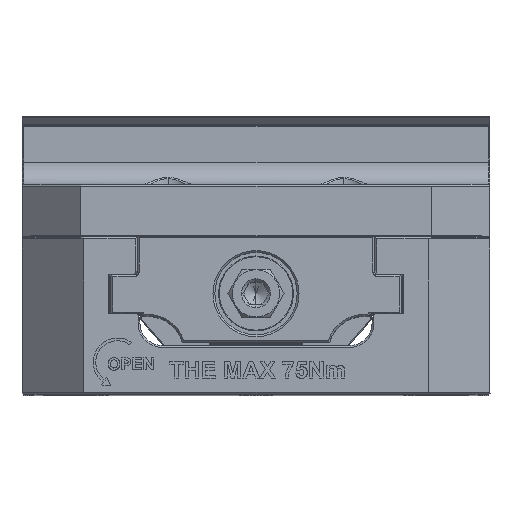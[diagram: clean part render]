
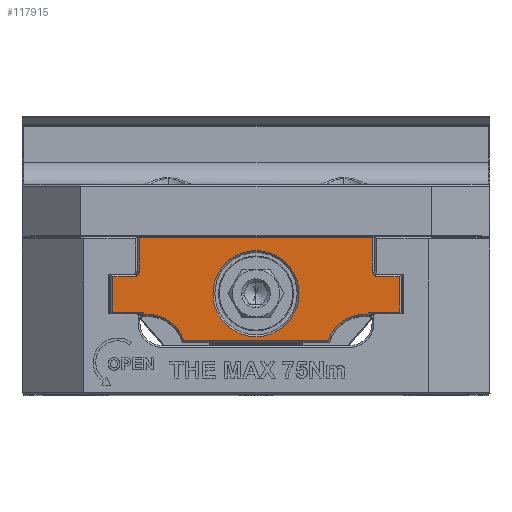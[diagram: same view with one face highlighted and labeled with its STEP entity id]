
A CAD part, top view. The second image highlights one B-rep face of the part: STEP entity #117915.
In plain terms, the highlighted planar face has unit normal (0, 0, 1) as drawn and (0, 0, -1) by its records, which use the part's own axes.
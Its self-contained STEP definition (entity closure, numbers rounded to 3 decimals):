
#116426=CARTESIAN_POINT('',(-30.853,-20.83,0.08));
#116427=DIRECTION('',(0.,0.,-1.));
#116428=DIRECTION('',(-0.001,1.,0.));
#116429=AXIS2_PLACEMENT_3D('',#116426,#116427,#116428);
#116431=DIRECTION('',(1.,0.,0.));
#116432=VECTOR('',#116431,1.264);
#116433=CARTESIAN_POINT('',(-29.825,-20.315,
0.08));
#116434=LINE('',#116433,#116432);
#116435=CARTESIAN_POINT('',(-28.851,-30.336,
0.08));
#116436=DIRECTION('',(0.,0.,-1.));
#116437=DIRECTION('',(0.029,1.,0.));
#116438=AXIS2_PLACEMENT_3D('',#116435,#116436,#116437);
#116440=DIRECTION('',(1.,0.,0.));
#116441=VECTOR('',#116440,38.668);
#116442=CARTESIAN_POINT('',(-19.334,-27.184,
0.08));
#116443=LINE('',#116442,#116441);
#116444=CARTESIAN_POINT('',(28.851,-30.336,
0.08));
#116445=DIRECTION('',(0.,0.,-1.));
#116446=DIRECTION('',(-0.949,0.314,0.));
#116447=AXIS2_PLACEMENT_3D('',#116444,#116445,#116446);
#116449=CARTESIAN_POINT('',(30.853,-20.83,0.08));
#116450=DIRECTION('',(0.,0.,-1.));
#116451=DIRECTION('',(-0.894,0.447,0.));
#116452=AXIS2_PLACEMENT_3D('',#116449,#116450,#116451);
#116454=DIRECTION('',(1.,0.,0.));
#116455=VECTOR('',#116454,7.397);
#116456=CARTESIAN_POINT('',(30.853,-19.68,
0.08));
#116457=LINE('',#116456,#116455);
#116458=DIRECTION('',(0.,1.,0.));
#116459=VECTOR('',#116458,9.5);
#116460=CARTESIAN_POINT('',(38.25,-19.68,0.08));
#116461=LINE('',#116460,#116459);
#116462=CARTESIAN_POINT('',(32.4,-9.03,0.08));
#116463=DIRECTION('',(0.,0.,-1.));
#116464=DIRECTION('',(0.,-1.,0.));
#116465=AXIS2_PLACEMENT_3D('',#116462,#116463,#116464);
#116467=DIRECTION('',(-1.,0.,0.));
#116468=VECTOR('',#116467,62.499);
#116469=CARTESIAN_POINT('',(31.25,0.266,0.08));
#116470=LINE('',#116469,#116468);
#116471=DIRECTION('',(0.,-1.,0.));
#116472=VECTOR('',#116471,9.3);
#116473=CARTESIAN_POINT('',(-31.25,0.266,0.08));
#116474=LINE('',#116473,#116472);
#116475=CARTESIAN_POINT('',(-32.4,-9.034,0.08));
#116476=DIRECTION('',(0.,0.,-1.));
#116477=DIRECTION('',(1.,0.,0.));
#116478=AXIS2_PLACEMENT_3D('',#116475,#116476,#116477);
#116480=CARTESIAN_POINT('',(0.,-14.745,0.08));
#116481=DIRECTION('',(0.,0.,-1.));
#116482=DIRECTION('',(-1.,0.,0.));
#116483=AXIS2_PLACEMENT_3D('',#116480,#116481,#116482);
#116485=CARTESIAN_POINT('',(0.,-14.745,0.08));
#116486=DIRECTION('',(0.,0.,-1.));
#116487=DIRECTION('',(0.,1.,0.));
#116488=AXIS2_PLACEMENT_3D('',#116485,#116486,#116487);
#116490=CARTESIAN_POINT('',(0.,-14.745,0.08));
#116491=DIRECTION('',(0.,0.,-1.));
#116492=DIRECTION('',(1.,0.,0.));
#116493=AXIS2_PLACEMENT_3D('',#116490,#116491,#116492);
#116495=CARTESIAN_POINT('',(0.,-14.745,0.08));
#116496=DIRECTION('',(0.,0.,-1.));
#116497=DIRECTION('',(0.,-1.,0.));
#116498=AXIS2_PLACEMENT_3D('',#116495,#116496,#116497);
#116504=DIRECTION('',(-1.,0.,0.));
#116505=VECTOR('',#116504,7.396);
#116506=CARTESIAN_POINT('',(-30.854,-19.68,
0.08));
#116507=LINE('',#116506,#116505);
#116508=DIRECTION('',(0.,1.,0.));
#116509=VECTOR('',#116508,9.495);
#116510=CARTESIAN_POINT('',(-38.25,-19.68,0.08));
#116511=LINE('',#116510,#116509);
#116802=DIRECTION('',(-1.,0.,0.));
#116803=VECTOR('',#116802,1.264);
#116804=CARTESIAN_POINT('',(29.825,-20.315,
0.08));
#116805=LINE('',#116804,#116803);
#116938=DIRECTION('',(1.,0.,0.));
#116939=VECTOR('',#116938,5.85);
#116940=CARTESIAN_POINT('',(32.4,-10.18,
0.08));
#116941=LINE('',#116940,#116939);
#117156=DIRECTION('',(1.,0.,0.));
#117157=VECTOR('',#117156,5.85);
#117158=CARTESIAN_POINT('',(-38.25,-10.184,0.08));
#117159=LINE('',#117158,#117157);
#117217=DIRECTION('',(0.,-1.,0.));
#117218=VECTOR('',#117217,9.295);
#117219=CARTESIAN_POINT('',(31.25,0.266,0.08));
#117220=LINE('',#117219,#117218);
#117526=CARTESIAN_POINT('',(0.,-3.247,0.08));
#117527=CARTESIAN_POINT('',(11.498,-14.745,0.08));
#117528=VERTEX_POINT('',#117526);
#117529=VERTEX_POINT('',#117527);
#117530=CARTESIAN_POINT('',(-11.498,-14.745,0.08));
#117531=VERTEX_POINT('',#117530);
#117532=CARTESIAN_POINT('',(-30.854,-19.68,
0.08));
#117533=CARTESIAN_POINT('',(-38.25,-19.68,0.08));
#117534=VERTEX_POINT('',#117532);
#117535=VERTEX_POINT('',#117533);
#117536=CARTESIAN_POINT('',(-29.825,-20.315,
0.08));
#117537=VERTEX_POINT('',#117536);
#117538=CARTESIAN_POINT('',(-28.561,-20.315,0.08));
#117539=VERTEX_POINT('',#117538);
#117540=CARTESIAN_POINT('',(-19.334,-27.184,0.08));
#117541=VERTEX_POINT('',#117540);
#117542=CARTESIAN_POINT('',(19.334,-27.184,
0.08));
#117543=VERTEX_POINT('',#117542);
#117544=CARTESIAN_POINT('',(28.561,-20.315,0.08));
#117545=VERTEX_POINT('',#117544);
#117546=CARTESIAN_POINT('',(29.825,-20.315,
0.08));
#117547=VERTEX_POINT('',#117546);
#117548=CARTESIAN_POINT('',(30.853,-19.68,0.08));
#117549=VERTEX_POINT('',#117548);
#117550=CARTESIAN_POINT('',(38.25,-19.68,0.08));
#117551=VERTEX_POINT('',#117550);
#117552=CARTESIAN_POINT('',(38.25,-10.18,0.08));
#117553=VERTEX_POINT('',#117552);
#117554=CARTESIAN_POINT('',(32.4,-10.18,
0.08));
#117555=VERTEX_POINT('',#117554);
#117556=CARTESIAN_POINT('',(31.25,-9.03,0.08));
#117557=VERTEX_POINT('',#117556);
#117558=CARTESIAN_POINT('',(31.25,0.266,0.08));
#117559=VERTEX_POINT('',#117558);
#117560=CARTESIAN_POINT('',(-31.25,0.266,0.08));
#117561=VERTEX_POINT('',#117560);
#117562=CARTESIAN_POINT('',(-31.25,-9.034,
0.08));
#117563=VERTEX_POINT('',#117562);
#117564=CARTESIAN_POINT('',(-32.4,-10.184,0.08));
#117565=VERTEX_POINT('',#117564);
#117566=CARTESIAN_POINT('',(-38.25,-10.184,0.08));
#117567=VERTEX_POINT('',#117566);
#117568=CARTESIAN_POINT('',(0.,-26.243,0.08));
#117569=VERTEX_POINT('',#117568);
#117864=CARTESIAN_POINT('',(-28.851,-30.336,0.08));
#117865=DIRECTION('',(0.,0.,-1.));
#117866=DIRECTION('',(-1.,0.,0.));
#117867=AXIS2_PLACEMENT_3D('',#117864,#117865,#117866);
#117868=PLANE('',#117867);
#117870=ORIENTED_EDGE('',*,*,#117869,.F.);
#117872=ORIENTED_EDGE('',*,*,#117871,.T.);
#117874=ORIENTED_EDGE('',*,*,#117873,.T.);
#117876=ORIENTED_EDGE('',*,*,#117875,.T.);
#117878=ORIENTED_EDGE('',*,*,#117877,.T.);
#117880=ORIENTED_EDGE('',*,*,#117879,.T.);
#117882=ORIENTED_EDGE('',*,*,#117881,.F.);
#117884=ORIENTED_EDGE('',*,*,#117883,.T.);
#117886=ORIENTED_EDGE('',*,*,#117885,.T.);
#117888=ORIENTED_EDGE('',*,*,#117887,.T.);
#117890=ORIENTED_EDGE('',*,*,#117889,.F.);
#117892=ORIENTED_EDGE('',*,*,#117891,.T.);
#117894=ORIENTED_EDGE('',*,*,#117893,.F.);
#117896=ORIENTED_EDGE('',*,*,#117895,.T.);
#117898=ORIENTED_EDGE('',*,*,#117897,.T.);
#117900=ORIENTED_EDGE('',*,*,#117899,.T.);
#117902=ORIENTED_EDGE('',*,*,#117901,.F.);
#117904=ORIENTED_EDGE('',*,*,#117903,.F.);
#117905=EDGE_LOOP('',(#117870,#117872,#117874,#117876,#117878,#117880,#117882,
#117884,#117886,#117888,#117890,#117892,#117894,#117896,#117898,#117900,#117902,
#117904));
#117906=FACE_OUTER_BOUND('',#117905,.F.);
#117907=ORIENTED_EDGE('',*,*,#117853,.T.);
#117908=ORIENTED_EDGE('',*,*,#117851,.T.);
#117910=ORIENTED_EDGE('',*,*,#117909,.T.);
#117912=ORIENTED_EDGE('',*,*,#117911,.T.);
#117913=EDGE_LOOP('',(#117907,#117908,#117910,#117912));
#117914=FACE_BOUND('',#117913,.F.);
#117915=ADVANCED_FACE('',(#117906,#117914),#117868,.T.);
#116430=CIRCLE('',#116429,1.15);
#116439=CIRCLE('',#116438,10.025);
#116448=CIRCLE('',#116447,10.025);
#116453=CIRCLE('',#116452,1.15);
#116466=CIRCLE('',#116465,1.15);
#116479=CIRCLE('',#116478,1.15);
#116484=CIRCLE('',#116483,11.498);
#116489=CIRCLE('',#116488,11.498);
#116494=CIRCLE('',#116493,11.498);
#116499=CIRCLE('',#116498,11.498);
#117851=EDGE_CURVE('',#117528,#117529,#116489,.T.);
#117853=EDGE_CURVE('',#117531,#117528,#116484,.T.);
#117869=EDGE_CURVE('',#117534,#117535,#116507,.T.);
#117871=EDGE_CURVE('',#117534,#117537,#116430,.T.);
#117873=EDGE_CURVE('',#117537,#117539,#116434,.T.);
#117875=EDGE_CURVE('',#117539,#117541,#116439,.T.);
#117877=EDGE_CURVE('',#117541,#117543,#116443,.T.);
#117879=EDGE_CURVE('',#117543,#117545,#116448,.T.);
#117881=EDGE_CURVE('',#117547,#117545,#116805,.T.);
#117883=EDGE_CURVE('',#117547,#117549,#116453,.T.);
#117885=EDGE_CURVE('',#117549,#117551,#116457,.T.);
#117887=EDGE_CURVE('',#117551,#117553,#116461,.T.);
#117889=EDGE_CURVE('',#117555,#117553,#116941,.T.);
#117891=EDGE_CURVE('',#117555,#117557,#116466,.T.);
#117893=EDGE_CURVE('',#117559,#117557,#117220,.T.);
#117895=EDGE_CURVE('',#117559,#117561,#116470,.T.);
#117897=EDGE_CURVE('',#117561,#117563,#116474,.T.);
#117899=EDGE_CURVE('',#117563,#117565,#116479,.T.);
#117901=EDGE_CURVE('',#117567,#117565,#117159,.T.);
#117903=EDGE_CURVE('',#117535,#117567,#116511,.T.);
#117909=EDGE_CURVE('',#117529,#117569,#116494,.T.);
#117911=EDGE_CURVE('',#117569,#117531,#116499,.T.);
